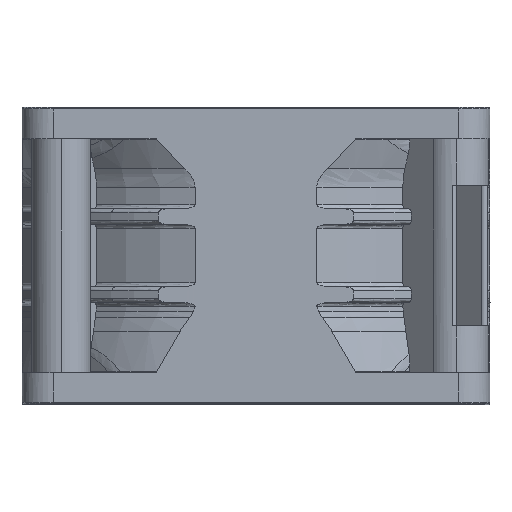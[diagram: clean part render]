
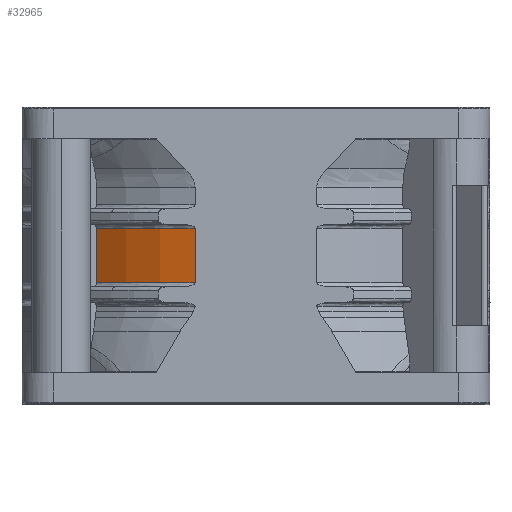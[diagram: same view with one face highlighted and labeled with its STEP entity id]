
A CAD part, top view. The second image highlights one B-rep face of the part: STEP entity #32965.
In plain terms, the highlighted cylindrical face has radius 31 mm (diameter 62 mm), a partial arc.
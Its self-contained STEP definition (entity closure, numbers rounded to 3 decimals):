
#614 = CARTESIAN_POINT ( 'NONE',  ( -7.81, -22.5, 30. ) ) ;
#990 = EDGE_CURVE ( 'NONE', #33748, #6683, #2626, .T. ) ;
#1017 = DIRECTION ( 'NONE',  ( 0., -1., 0. ) ) ;
#1687 = FACE_OUTER_BOUND ( 'NONE', #27417, .T. ) ;
#2052 = AXIS2_PLACEMENT_3D ( 'NONE', #31541, #9133, #42661 ) ;
#2626 = CIRCLE ( 'NONE', #36930, 31. ) ;
#3567 = CARTESIAN_POINT ( 'NONE',  ( 0., -22.5, 0. ) ) ;
#4302 = CARTESIAN_POINT ( 'NONE',  ( -7.81, 0., 30. ) ) ;
#6683 = VERTEX_POINT ( 'NONE', #21537 ) ;
#7329 = DIRECTION ( 'NONE',  ( 0., 0., 1. ) ) ;
#9133 = DIRECTION ( 'NONE',  ( 0., 1., 0. ) ) ;
#11799 = VERTEX_POINT ( 'NONE', #614 ) ;
#15014 = CIRCLE ( 'NONE', #27731, 31. ) ;
#16783 = VERTEX_POINT ( 'NONE', #21642 ) ;
#19711 = LINE ( 'NONE', #45813, #38455 ) ;
#19757 = ORIENTED_EDGE ( 'NONE', *, *, #35308, .T. ) ;
#19984 = DIRECTION ( 'NONE',  ( 0., 0., -1. ) ) ;
#20018 = DIRECTION ( 'NONE',  ( 0., -1., 0. ) ) ;
#20141 = CARTESIAN_POINT ( 'NONE',  ( 0., -15.5, 0. ) ) ;
#21537 = CARTESIAN_POINT ( 'NONE',  ( -20.46, -15.5, 23.289 ) ) ;
#21642 = CARTESIAN_POINT ( 'NONE',  ( -20.46, -22.5, 23.289 ) ) ;
#25550 = ORIENTED_EDGE ( 'NONE', *, *, #30180, .T. ) ;
#27417 = EDGE_LOOP ( 'NONE', ( #25550, #27754, #19757, #40428 ) ) ;
#27731 = AXIS2_PLACEMENT_3D ( 'NONE', #3567, #29728, #7329 ) ;
#27754 = ORIENTED_EDGE ( 'NONE', *, *, #990, .T. ) ;
#29728 = DIRECTION ( 'NONE',  ( 0., 1., 0. ) ) ;
#30180 = EDGE_CURVE ( 'NONE', #11799, #33748, #46234, .T. ) ;
#30469 = DIRECTION ( 'NONE',  ( 0., 1., 0. ) ) ;
#31541 = CARTESIAN_POINT ( 'NONE',  ( 0., -35.5, 0. ) ) ;
#32965 = ADVANCED_FACE ( 'NONE', ( #1687 ), #47866, .T. ) ;
#33748 = VERTEX_POINT ( 'NONE', #42913 ) ;
#34096 = EDGE_CURVE ( 'NONE', #16783, #11799, #15014, .T. ) ;
#35308 = EDGE_CURVE ( 'NONE', #6683, #16783, #19711, .T. ) ;
#36930 = AXIS2_PLACEMENT_3D ( 'NONE', #20141, #20018, #19984 ) ;
#38455 = VECTOR ( 'NONE', #1017, 1000. ) ;
#40428 = ORIENTED_EDGE ( 'NONE', *, *, #34096, .T. ) ;
#42661 = DIRECTION ( 'NONE',  ( 0., 0., 1. ) ) ;
#42913 = CARTESIAN_POINT ( 'NONE',  ( -7.81, -15.5, 30. ) ) ;
#45064 = VECTOR ( 'NONE', #30469, 1000. ) ;
#45813 = CARTESIAN_POINT ( 'NONE',  ( -20.46, -35.5, 23.289 ) ) ;
#46234 = LINE ( 'NONE', #4302, #45064 ) ;
#47866 = CYLINDRICAL_SURFACE ( 'NONE', #2052, 31. ) ;
